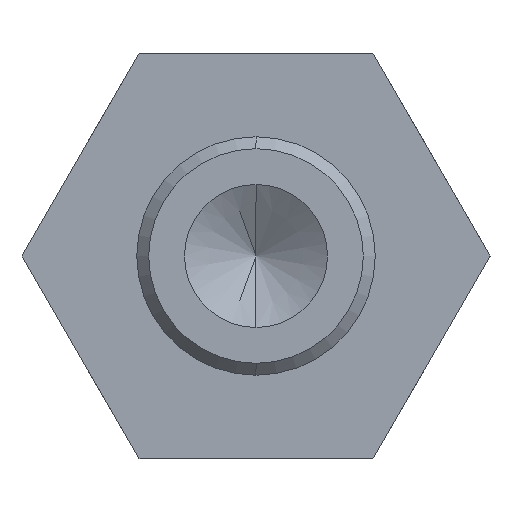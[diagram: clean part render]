
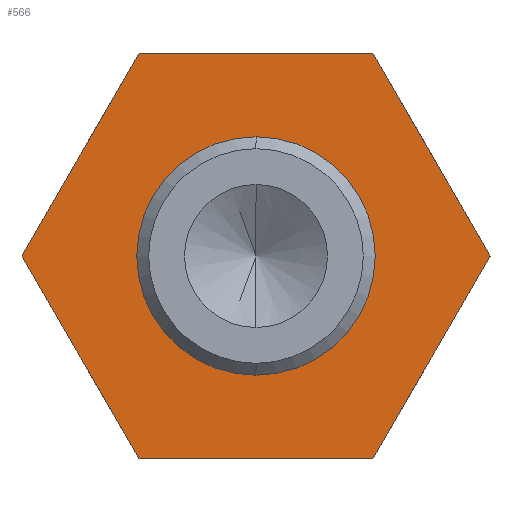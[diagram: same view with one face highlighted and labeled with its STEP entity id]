
A CAD part, front view. The second image highlights one B-rep face of the part: STEP entity #566.
In plain terms, the highlighted planar face has unit normal (0, -1, 0).
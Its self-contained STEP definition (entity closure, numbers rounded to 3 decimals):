
#3 = DIRECTION ( 'NONE',  ( 0., 1., 0. ) ) ;
#7 = ORIENTED_EDGE ( 'NONE', *, *, #623, .F. ) ;
#8 = DIRECTION ( 'NONE',  ( -0.5, 0., -0.866 ) ) ;
#24 = FACE_OUTER_BOUND ( 'NONE', #187, .T. ) ;
#29 = LINE ( 'NONE', #149, #214 ) ;
#34 = CARTESIAN_POINT ( 'NONE',  ( -4.907, 12., 8.5 ) ) ;
#55 = CARTESIAN_POINT ( 'NONE',  ( -4.907, 12., 8.5 ) ) ;
#64 = AXIS2_PLACEMENT_3D ( 'NONE', #268, #3, #530 ) ;
#74 = DIRECTION ( 'NONE',  ( 0., 0., 1. ) ) ;
#75 = VECTOR ( 'NONE', #325, 1000. ) ;
#78 = VERTEX_POINT ( 'NONE', #267 ) ;
#84 = ORIENTED_EDGE ( 'NONE', *, *, #242, .F. ) ;
#87 = VECTOR ( 'NONE', #584, 1000. ) ;
#88 = VERTEX_POINT ( 'NONE', #99 ) ;
#99 = CARTESIAN_POINT ( 'NONE',  ( -9.815, 12., 0. ) ) ;
#104 = CIRCLE ( 'NONE', #403, 4.05 ) ;
#126 = CARTESIAN_POINT ( 'NONE',  ( 0., 12., 0. ) ) ;
#143 = VERTEX_POINT ( 'NONE', #521 ) ;
#149 = CARTESIAN_POINT ( 'NONE',  ( 9.815, 12., 0. ) ) ;
#151 = CARTESIAN_POINT ( 'NONE',  ( -9.815, 12., 0. ) ) ;
#158 = DIRECTION ( 'NONE',  ( 1., 0., 0. ) ) ;
#169 = LINE ( 'NONE', #151, #87 ) ;
#179 = EDGE_CURVE ( 'NONE', #629, #78, #363, .T. ) ;
#181 = CARTESIAN_POINT ( 'NONE',  ( -4.907, 12., -8.5 ) ) ;
#185 = EDGE_CURVE ( 'NONE', #484, #88, #296, .T. ) ;
#187 = EDGE_LOOP ( 'NONE', ( #399, #353, #84, #196, #7, #456 ) ) ;
#196 = ORIENTED_EDGE ( 'NONE', *, *, #185, .F. ) ;
#213 = EDGE_CURVE ( 'NONE', #596, #143, #602, .T. ) ;
#214 = VECTOR ( 'NONE', #8, 1000. ) ;
#242 = EDGE_CURVE ( 'NONE', #88, #629, #169, .T. ) ;
#243 = VECTOR ( 'NONE', #309, 1000. ) ;
#260 = EDGE_CURVE ( 'NONE', #78, #652, #428, .T. ) ;
#267 = CARTESIAN_POINT ( 'NONE',  ( 4.907, 12., 8.5 ) ) ;
#268 = CARTESIAN_POINT ( 'NONE',  ( 0., 12., 0. ) ) ;
#286 = CARTESIAN_POINT ( 'NONE',  ( 4.907, 12., -8.5 ) ) ;
#296 = LINE ( 'NONE', #380, #351 ) ;
#307 = EDGE_CURVE ( 'NONE', #652, #329, #29, .T. ) ;
#309 = DIRECTION ( 'NONE',  ( -1., 0., 0. ) ) ;
#315 = PLANE ( 'NONE',  #560 ) ;
#325 = DIRECTION ( 'NONE',  ( 0.5, 0., -0.866 ) ) ;
#329 = VERTEX_POINT ( 'NONE', #286 ) ;
#351 = VECTOR ( 'NONE', #586, 1000. ) ;
#353 = ORIENTED_EDGE ( 'NONE', *, *, #179, .F. ) ;
#363 = LINE ( 'NONE', #55, #533 ) ;
#369 = LINE ( 'NONE', #515, #243 ) ;
#380 = CARTESIAN_POINT ( 'NONE',  ( -4.907, 12., -8.5 ) ) ;
#399 = ORIENTED_EDGE ( 'NONE', *, *, #260, .F. ) ;
#403 = AXIS2_PLACEMENT_3D ( 'NONE', #126, #450, #74 ) ;
#428 = LINE ( 'NONE', #536, #75 ) ;
#439 = ORIENTED_EDGE ( 'NONE', *, *, #213, .T. ) ;
#440 = ORIENTED_EDGE ( 'NONE', *, *, #467, .T. ) ;
#450 = DIRECTION ( 'NONE',  ( 0., 1., 0. ) ) ;
#453 = FACE_BOUND ( 'NONE', #579, .T. ) ;
#456 = ORIENTED_EDGE ( 'NONE', *, *, #307, .F. ) ;
#467 = EDGE_CURVE ( 'NONE', #143, #596, #104, .T. ) ;
#484 = VERTEX_POINT ( 'NONE', #181 ) ;
#513 = CARTESIAN_POINT ( 'NONE',  ( 0., 12., 0. ) ) ;
#515 = CARTESIAN_POINT ( 'NONE',  ( 4.907, 12., -8.5 ) ) ;
#521 = CARTESIAN_POINT ( 'NONE',  ( 0., 12., 4.05 ) ) ;
#530 = DIRECTION ( 'NONE',  ( 0., 0., 1. ) ) ;
#533 = VECTOR ( 'NONE', #158, 1000. ) ;
#536 = CARTESIAN_POINT ( 'NONE',  ( 4.907, 12., 8.5 ) ) ;
#560 = AXIS2_PLACEMENT_3D ( 'NONE', #513, #676, #573 ) ;
#566 = ADVANCED_FACE ( 'NONE', ( #453, #24 ), #315, .F. ) ;
#573 = DIRECTION ( 'NONE',  ( 0., 0., 1. ) ) ;
#579 = EDGE_LOOP ( 'NONE', ( #439, #440 ) ) ;
#584 = DIRECTION ( 'NONE',  ( 0.5, 0., 0.866 ) ) ;
#586 = DIRECTION ( 'NONE',  ( -0.5, 0., 0.866 ) ) ;
#596 = VERTEX_POINT ( 'NONE', #626 ) ;
#602 = CIRCLE ( 'NONE', #64, 4.05 ) ;
#623 = EDGE_CURVE ( 'NONE', #329, #484, #369, .T. ) ;
#624 = CARTESIAN_POINT ( 'NONE',  ( 9.815, 12., 0. ) ) ;
#626 = CARTESIAN_POINT ( 'NONE',  ( 0., 12., -4.05 ) ) ;
#629 = VERTEX_POINT ( 'NONE', #34 ) ;
#652 = VERTEX_POINT ( 'NONE', #624 ) ;
#676 = DIRECTION ( 'NONE',  ( 0., 1., 0. ) ) ;
